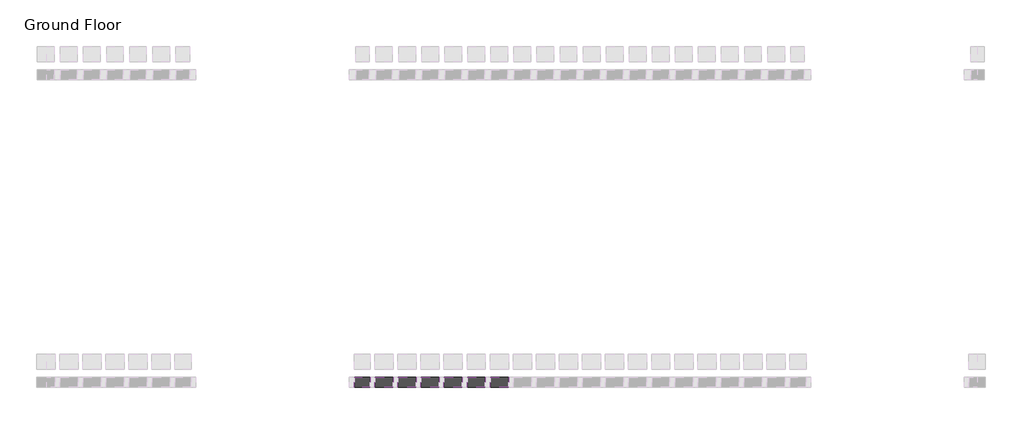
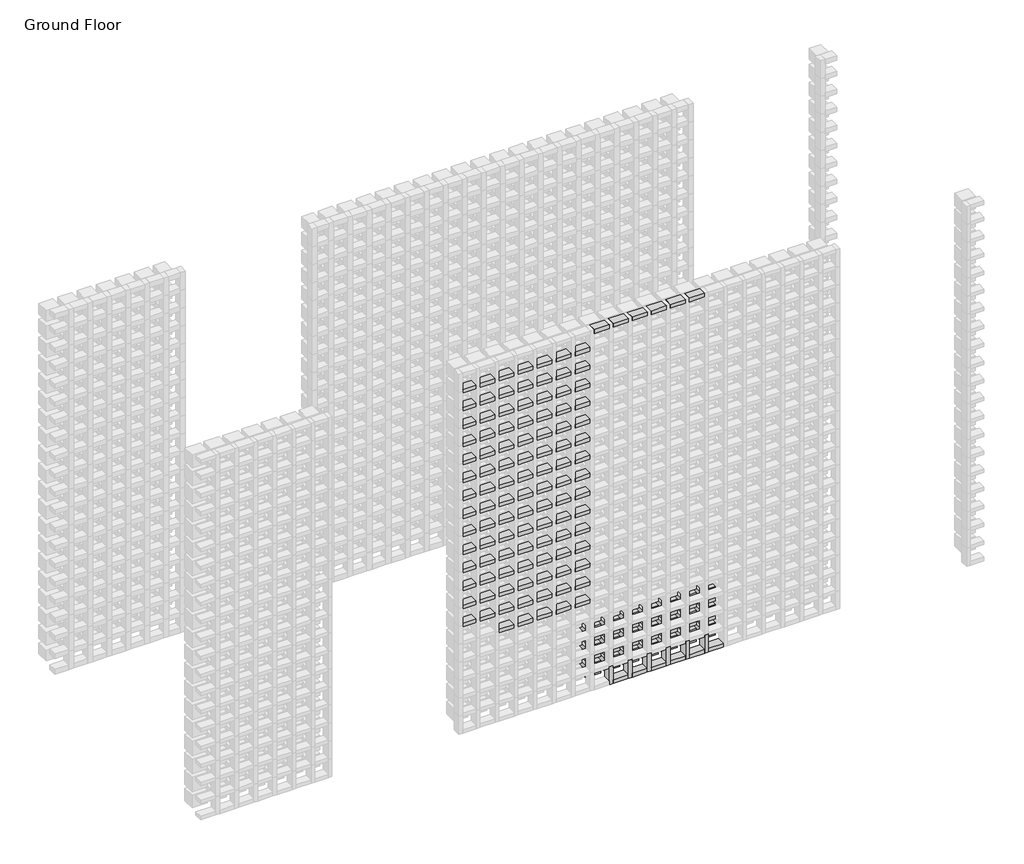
# One storey, part 76 of 350: 121 members, 21 plates.
"""IFC4 building model written with IfcOpenShell, lengths in millimetres."""

from ifc_helpers import new_model, si_unit, origin, place, context, project, spatial, transform, mapped, element, save
from components import rectangular_mullion_5b501421, rectangular_mullion_51467dcc, rectangular_mullion_d4c9a775, rectangular_mullion_e9e2e2fa, rectangular_mullion_f28dea33, empty_system_panel_empty_a57e421f, empty_system_panel_empty_fe50b430

model = new_model("IFC4")

# Units and contexts
model_context = context("Model", 3, world=origin())
ifc_project = project(units=[si_unit("LENGTHUNIT", "METRE", prefix="MILLI")], contexts=[model_context])

# Site, building, storey
site = spatial("IfcSite", under=ifc_project)
building = spatial("IfcBuilding", under=site)
storey = spatial("IfcBuildingStorey", under=building, Name="Ground Floor", Elevation=0.0)

# Members
placement = place(None, origin())
rectangular_mullion_shape = rectangular_mullion_5b501421(model_context)
element("IfcMember", 1, ObjectType="Rectangular Mullion : Batten_Timber_Modinex_Austratus_Grid_Fascia_30x65_Ironbark", at=placement, inside=storey, context=model_context, shape_type="MappedRepresentation", body=[
    mapped(rectangular_mullion_shape, transform((15116.4361642, 38968.2978302, 0.0), x_axis=(1.0, 0.0, 0.0), y_axis=(0.0, -1.0, 0.0), z_axis=(0.0, 0.0, -1.0))),
])
element("IfcMember", 2, ObjectType="Rectangular Mullion : Batten_Timber_Modinex_Austratus_Grid_Fascia_30x65_Ironbark", at=placement, inside=storey, context=model_context, shape_type="MappedRepresentation", body=[
    mapped(rectangular_mullion_shape, transform((15266.4361642, 38968.2978302, 0.0), x_axis=(1.0, 0.0, 0.0), y_axis=(0.0, -1.0, 0.0), z_axis=(0.0, 0.0, -1.0))),
])
element("IfcMember", 3, ObjectType="Rectangular Mullion : Batten_Timber_Modinex_Austratus_Grid_Fascia_30x65_Ironbark", at=placement, inside=storey, context=model_context, shape_type="MappedRepresentation", body=[
    mapped(rectangular_mullion_shape, transform((15416.4361642, 38968.2978302, 0.0), x_axis=(1.0, 0.0, 0.0), y_axis=(0.0, -1.0, 0.0), z_axis=(0.0, 0.0, -1.0))),
])
element("IfcMember", 4, ObjectType="Rectangular Mullion : Batten_Timber_Modinex_Austratus_Grid_Fascia_30x65_Ironbark", at=placement, inside=storey, context=model_context, shape_type="MappedRepresentation", body=[
    mapped(rectangular_mullion_shape, transform((15566.4361642, 38968.2978302, 0.0), x_axis=(1.0, 0.0, 0.0), y_axis=(0.0, -1.0, 0.0), z_axis=(0.0, 0.0, -1.0))),
])
element("IfcMember", 5, ObjectType="Rectangular Mullion : Batten_Timber_Modinex_Austratus_Grid_Fascia_30x65_Ironbark", at=placement, inside=storey, context=model_context, shape_type="MappedRepresentation", body=[
    mapped(rectangular_mullion_shape, transform((15716.4361642, 38968.2978302, 0.0), x_axis=(1.0, 0.0, 0.0), y_axis=(0.0, -1.0, 0.0), z_axis=(0.0, 0.0, -1.0))),
])
element("IfcMember", 6, ObjectType="Rectangular Mullion : Batten_Timber_Modinex_Austratus_Grid_Fascia_30x65_Ironbark", at=placement, inside=storey, context=model_context, shape_type="MappedRepresentation", body=[
    mapped(rectangular_mullion_shape, transform((15866.4361642, 38968.2978302, 0.0), x_axis=(1.0, 0.0, 0.0), y_axis=(0.0, -1.0, 0.0), z_axis=(0.0, 0.0, -1.0))),
])
rectangular_mullion_2_shape = rectangular_mullion_51467dcc(model_context)
element("IfcMember", 7, ObjectType="Rectangular Mullion : Batten_Timber_Modinex_Austratus_Grid_Fascia_30x65_Ironbark", at=placement, inside=storey, context=model_context, shape_type="MappedRepresentation", body=[
    mapped(rectangular_mullion_2_shape, transform((15101.4361642, 38968.2978302, 3000.0), x_axis=(0.0, 0.0, 1.0), y_axis=(0.0, -1.0, 0.0), z_axis=(1.0, 0.0, 0.0))),
])
element("IfcMember", 8, ObjectType="Rectangular Mullion : Batten_Timber_Modinex_Austratus_Grid_Fascia_30x65_Ironbark", at=placement, inside=storey, context=model_context, shape_type="MappedRepresentation", body=[
    mapped(rectangular_mullion_2_shape, transform((15251.4361642, 38968.2978302, 3000.0), x_axis=(0.0, 0.0, 1.0), y_axis=(0.0, -1.0, 0.0), z_axis=(1.0, 0.0, 0.0))),
])
element("IfcMember", 9, ObjectType="Rectangular Mullion : Batten_Timber_Modinex_Austratus_Grid_Fascia_30x65_Ironbark", at=placement, inside=storey, context=model_context, shape_type="MappedRepresentation", body=[
    mapped(rectangular_mullion_2_shape, transform((15401.4361642, 38968.2978302, 3000.0), x_axis=(0.0, 0.0, 1.0), y_axis=(0.0, -1.0, 0.0), z_axis=(1.0, 0.0, 0.0))),
])
element("IfcMember", 10, ObjectType="Rectangular Mullion : Batten_Timber_Modinex_Austratus_Grid_Fascia_30x65_Ironbark", at=placement, inside=storey, context=model_context, shape_type="MappedRepresentation", body=[
    mapped(rectangular_mullion_2_shape, transform((15551.4361642, 38968.2978302, 3000.0), x_axis=(0.0, 0.0, 1.0), y_axis=(0.0, -1.0, 0.0), z_axis=(1.0, 0.0, 0.0))),
])
element("IfcMember", 11, ObjectType="Rectangular Mullion : Batten_Timber_Modinex_Austratus_Grid_Fascia_30x65_Ironbark", at=placement, inside=storey, context=model_context, shape_type="MappedRepresentation", body=[
    mapped(rectangular_mullion_2_shape, transform((15701.4361642, 38968.2978302, 3000.0), x_axis=(0.0, 0.0, 1.0), y_axis=(0.0, -1.0, 0.0), z_axis=(1.0, 0.0, 0.0))),
])
element("IfcMember", 12, ObjectType="Rectangular Mullion : Batten_Timber_Modinex_Austratus_Grid_Fascia_30x65_Ironbark", at=placement, inside=storey, context=model_context, shape_type="MappedRepresentation", body=[
    mapped(rectangular_mullion_2_shape, transform((15851.4361642, 38968.2978302, 3000.0), x_axis=(0.0, 0.0, 1.0), y_axis=(0.0, -1.0, 0.0), z_axis=(1.0, 0.0, 0.0))),
])
rectangular_mullion_3_shape = rectangular_mullion_d4c9a775(model_context)
element("IfcMember", 13, ObjectType="Rectangular Mullion : Batten_Timber_Modinex_Austratus_Grid_Fascia_30x65_Ironbark", at=placement, inside=storey, context=model_context, shape_type="MappedRepresentation", body=[
    mapped(rectangular_mullion_3_shape, transform((15131.4361642, 38968.2978302, 0.0), x_axis=(0.0, 0.0, -1.0), y_axis=(0.0, -1.0, 0.0), z_axis=(-1.0, 0.0, 0.0))),
])
element("IfcMember", 14, ObjectType="Rectangular Mullion : Batten_Timber_Modinex_Austratus_Grid_Fascia_30x65_Ironbark", at=placement, inside=storey, context=model_context, shape_type="MappedRepresentation", body=[
    mapped(rectangular_mullion_3_shape, transform((15281.4361642, 38968.2978302, 0.0), x_axis=(0.0, 0.0, -1.0), y_axis=(0.0, -1.0, 0.0), z_axis=(-1.0, 0.0, 0.0))),
])
element("IfcMember", 15, ObjectType="Rectangular Mullion : Batten_Timber_Modinex_Austratus_Grid_Fascia_30x65_Ironbark", at=placement, inside=storey, context=model_context, shape_type="MappedRepresentation", body=[
    mapped(rectangular_mullion_3_shape, transform((15431.4361642, 38968.2978302, 0.0), x_axis=(0.0, 0.0, -1.0), y_axis=(0.0, -1.0, 0.0), z_axis=(-1.0, 0.0, 0.0))),
])
element("IfcMember", 16, ObjectType="Rectangular Mullion : Batten_Timber_Modinex_Austratus_Grid_Fascia_30x65_Ironbark", at=placement, inside=storey, context=model_context, shape_type="MappedRepresentation", body=[
    mapped(rectangular_mullion_3_shape, transform((15581.4361642, 38968.2978302, 0.0), x_axis=(0.0, 0.0, -1.0), y_axis=(0.0, -1.0, 0.0), z_axis=(-1.0, 0.0, 0.0))),
])
element("IfcMember", 17, ObjectType="Rectangular Mullion : Batten_Timber_Modinex_Austratus_Grid_Fascia_30x65_Ironbark", at=placement, inside=storey, context=model_context, shape_type="MappedRepresentation", body=[
    mapped(rectangular_mullion_3_shape, transform((15731.4361642, 38968.2978302, 0.0), x_axis=(0.0, 0.0, -1.0), y_axis=(0.0, -1.0, 0.0), z_axis=(-1.0, 0.0, 0.0))),
])
element("IfcMember", 18, ObjectType="Rectangular Mullion : Batten_Timber_Modinex_Austratus_Grid_Fascia_30x65_Ironbark", at=placement, inside=storey, context=model_context, shape_type="MappedRepresentation", body=[
    mapped(rectangular_mullion_3_shape, transform((15881.4361642, 38968.2978302, 0.0), x_axis=(0.0, 0.0, -1.0), y_axis=(0.0, -1.0, 0.0), z_axis=(-1.0, 0.0, 0.0))),
])
rectangular_mullion_4_shape = rectangular_mullion_e9e2e2fa(model_context)
element("IfcMember", 19, ObjectType="Rectangular Mullion : Batten_Timber_Modinex_Austratus_Grid_Fascia_30x65_Ironbark", at=placement, inside=storey, context=model_context, shape_type="MappedRepresentation", body=[
    mapped(rectangular_mullion_4_shape, transform((14051.4361642, 38968.2978302, 900.0), x_axis=(0.0, 0.0, 1.0), y_axis=(0.0, -1.0, 0.0), z_axis=(1.0, 0.0, 0.0))),
])
element("IfcMember", 20, ObjectType="Rectangular Mullion : Batten_Timber_Modinex_Austratus_Grid_Fascia_30x65_Ironbark", at=placement, inside=storey, context=model_context, shape_type="MappedRepresentation", body=[
    mapped(rectangular_mullion_4_shape, transform((14051.4361642, 38968.2978302, 1050.0), x_axis=(0.0, 0.0, 1.0), y_axis=(0.0, -1.0, 0.0), z_axis=(1.0, 0.0, 0.0))),
])
element("IfcMember", 21, ObjectType="Rectangular Mullion : Batten_Timber_Modinex_Austratus_Grid_Fascia_30x65_Ironbark", at=placement, inside=storey, context=model_context, shape_type="MappedRepresentation", body=[
    mapped(rectangular_mullion_4_shape, transform((14051.4361642, 38968.2978302, 1200.0), x_axis=(0.0, 0.0, 1.0), y_axis=(0.0, -1.0, 0.0), z_axis=(1.0, 0.0, 0.0))),
])
element("IfcMember", 22, ObjectType="Rectangular Mullion : Batten_Timber_Modinex_Austratus_Grid_Fascia_30x65_Ironbark", at=placement, inside=storey, context=model_context, shape_type="MappedRepresentation", body=[
    mapped(rectangular_mullion_4_shape, transform((14051.4361642, 38968.2978302, 1350.0), x_axis=(0.0, 0.0, 1.0), y_axis=(0.0, -1.0, 0.0), z_axis=(1.0, 0.0, 0.0))),
])
element("IfcMember", 23, ObjectType="Rectangular Mullion : Batten_Timber_Modinex_Austratus_Grid_Fascia_30x65_Ironbark", at=placement, inside=storey, context=model_context, shape_type="MappedRepresentation", body=[
    mapped(rectangular_mullion_4_shape, transform((14051.4361642, 38968.2978302, 1500.0), x_axis=(0.0, 0.0, 1.0), y_axis=(0.0, -1.0, 0.0), z_axis=(1.0, 0.0, 0.0))),
])
element("IfcMember", 24, ObjectType="Rectangular Mullion : Batten_Timber_Modinex_Austratus_Grid_Fascia_30x65_Ironbark", at=placement, inside=storey, context=model_context, shape_type="MappedRepresentation", body=[
    mapped(rectangular_mullion_4_shape, transform((14051.4361642, 38968.2978302, 1650.0), x_axis=(0.0, 0.0, 1.0), y_axis=(0.0, -1.0, 0.0), z_axis=(1.0, 0.0, 0.0))),
])
element("IfcMember", 25, ObjectType="Rectangular Mullion : Batten_Timber_Modinex_Austratus_Grid_Fascia_30x65_Ironbark", at=placement, inside=storey, context=model_context, shape_type="MappedRepresentation", body=[
    mapped(rectangular_mullion_4_shape, transform((14051.4361642, 38968.2978302, 1800.0), x_axis=(0.0, 0.0, 1.0), y_axis=(0.0, -1.0, 0.0), z_axis=(1.0, 0.0, 0.0))),
])
element("IfcMember", 26, ObjectType="Rectangular Mullion : Batten_Timber_Modinex_Austratus_Grid_Fascia_30x65_Ironbark", at=placement, inside=storey, context=model_context, shape_type="MappedRepresentation", body=[
    mapped(rectangular_mullion_4_shape, transform((14051.4361642, 38968.2978302, 1950.0), x_axis=(0.0, 0.0, 1.0), y_axis=(0.0, -1.0, 0.0), z_axis=(1.0, 0.0, 0.0))),
])
element("IfcMember", 27, ObjectType="Rectangular Mullion : Batten_Timber_Modinex_Austratus_Grid_Fascia_30x65_Ironbark", at=placement, inside=storey, context=model_context, shape_type="MappedRepresentation", body=[
    mapped(rectangular_mullion_4_shape, transform((14051.4361642, 38968.2978302, 2100.0), x_axis=(0.0, 0.0, 1.0), y_axis=(0.0, -1.0, 0.0), z_axis=(1.0, 0.0, 0.0))),
])
element("IfcMember", 28, ObjectType="Rectangular Mullion : Batten_Timber_Modinex_Austratus_Grid_Fascia_30x65_Ironbark", at=placement, inside=storey, context=model_context, shape_type="MappedRepresentation", body=[
    mapped(rectangular_mullion_4_shape, transform((14051.4361642, 38968.2978302, 2250.0), x_axis=(0.0, 0.0, 1.0), y_axis=(0.0, -1.0, 0.0), z_axis=(1.0, 0.0, 0.0))),
])
element("IfcMember", 29, ObjectType="Rectangular Mullion : Batten_Timber_Modinex_Austratus_Grid_Fascia_30x65_Ironbark", at=placement, inside=storey, context=model_context, shape_type="MappedRepresentation", body=[
    mapped(rectangular_mullion_4_shape, transform((14051.4361642, 38968.2978302, 2400.0), x_axis=(0.0, 0.0, 1.0), y_axis=(0.0, -1.0, 0.0), z_axis=(1.0, 0.0, 0.0))),
])
element("IfcMember", 30, ObjectType="Rectangular Mullion : Batten_Timber_Modinex_Austratus_Grid_Fascia_30x65_Ironbark", at=placement, inside=storey, context=model_context, shape_type="MappedRepresentation", body=[
    mapped(rectangular_mullion_4_shape, transform((14051.4361642, 38968.2978302, 2550.0), x_axis=(0.0, 0.0, 1.0), y_axis=(0.0, -1.0, 0.0), z_axis=(1.0, 0.0, 0.0))),
])
element("IfcMember", 31, ObjectType="Rectangular Mullion : Batten_Timber_Modinex_Austratus_Grid_Fascia_30x65_Ironbark", at=placement, inside=storey, context=model_context, shape_type="MappedRepresentation", body=[
    mapped(rectangular_mullion_4_shape, transform((14051.4361642, 38968.2978302, 2700.0), x_axis=(0.0, 0.0, 1.0), y_axis=(0.0, -1.0, 0.0), z_axis=(1.0, 0.0, 0.0))),
])
element("IfcMember", 32, ObjectType="Rectangular Mullion : Batten_Timber_Modinex_Austratus_Grid_Fascia_30x65_Ironbark", at=placement, inside=storey, context=model_context, shape_type="MappedRepresentation", body=[
    mapped(rectangular_mullion_4_shape, transform((14051.4361642, 38968.2978302, 2850.0), x_axis=(0.0, 0.0, 1.0), y_axis=(0.0, -1.0, 0.0), z_axis=(1.0, 0.0, 0.0))),
])
rectangular_mullion_5_shape = rectangular_mullion_f28dea33(model_context)
element("IfcMember", 33, ObjectType="Rectangular Mullion : Batten_Timber_Modinex_Austratus_Grid_Fascia_30x65_Ironbark", at=placement, inside=storey, context=model_context, shape_type="MappedRepresentation", body=[
    mapped(rectangular_mullion_5_shape, transform((14351.4361642, 38968.2978302, 750.0), x_axis=(0.0, 0.0, 1.0), y_axis=(0.0, -1.0, 0.0), z_axis=(1.0, 0.0, 0.0))),
])
element("IfcMember", 34, ObjectType="Rectangular Mullion : Batten_Timber_Modinex_Austratus_Grid_Fascia_30x65_Ironbark", at=placement, inside=storey, context=model_context, shape_type="MappedRepresentation", body=[
    mapped(rectangular_mullion_5_shape, transform((14501.4361642, 38968.2978302, 750.0), x_axis=(0.0, 0.0, 1.0), y_axis=(0.0, -1.0, 0.0), z_axis=(1.0, 0.0, 0.0))),
])
element("IfcMember", 35, ObjectType="Rectangular Mullion : Batten_Timber_Modinex_Austratus_Grid_Fascia_30x65_Ironbark", at=placement, inside=storey, context=model_context, shape_type="MappedRepresentation", body=[
    mapped(rectangular_mullion_5_shape, transform((14651.4361642, 38968.2978302, 750.0), x_axis=(0.0, 0.0, 1.0), y_axis=(0.0, -1.0, 0.0), z_axis=(1.0, 0.0, 0.0))),
])
element("IfcMember", 36, ObjectType="Rectangular Mullion : Batten_Timber_Modinex_Austratus_Grid_Fascia_30x65_Ironbark", at=placement, inside=storey, context=model_context, shape_type="MappedRepresentation", body=[
    mapped(rectangular_mullion_5_shape, transform((14801.4361642, 38968.2978302, 750.0), x_axis=(0.0, 0.0, 1.0), y_axis=(0.0, -1.0, 0.0), z_axis=(1.0, 0.0, 0.0))),
])
element("IfcMember", 37, ObjectType="Rectangular Mullion : Batten_Timber_Modinex_Austratus_Grid_Fascia_30x65_Ironbark", at=placement, inside=storey, context=model_context, shape_type="MappedRepresentation", body=[
    mapped(rectangular_mullion_5_shape, transform((14951.4361642, 38968.2978302, 750.0), x_axis=(0.0, 0.0, 1.0), y_axis=(0.0, -1.0, 0.0), z_axis=(1.0, 0.0, 0.0))),
])
element("IfcMember", 38, ObjectType="Rectangular Mullion : Batten_Timber_Modinex_Austratus_Grid_Fascia_30x65_Ironbark", at=placement, inside=storey, context=model_context, shape_type="MappedRepresentation", body=[
    mapped(rectangular_mullion_5_shape, transform((14201.4361642, 38968.2978302, 900.0), x_axis=(0.0, 0.0, 1.0), y_axis=(0.0, -1.0, 0.0), z_axis=(1.0, 0.0, 0.0))),
])
element("IfcMember", 39, ObjectType="Rectangular Mullion : Batten_Timber_Modinex_Austratus_Grid_Fascia_30x65_Ironbark", at=placement, inside=storey, context=model_context, shape_type="MappedRepresentation", body=[
    mapped(rectangular_mullion_5_shape, transform((14351.4361642, 38968.2978302, 900.0), x_axis=(0.0, 0.0, 1.0), y_axis=(0.0, -1.0, 0.0), z_axis=(1.0, 0.0, 0.0))),
])
element("IfcMember", 40, ObjectType="Rectangular Mullion : Batten_Timber_Modinex_Austratus_Grid_Fascia_30x65_Ironbark", at=placement, inside=storey, context=model_context, shape_type="MappedRepresentation", body=[
    mapped(rectangular_mullion_5_shape, transform((14501.4361642, 38968.2978302, 900.0), x_axis=(0.0, 0.0, 1.0), y_axis=(0.0, -1.0, 0.0), z_axis=(1.0, 0.0, 0.0))),
])
element("IfcMember", 41, ObjectType="Rectangular Mullion : Batten_Timber_Modinex_Austratus_Grid_Fascia_30x65_Ironbark", at=placement, inside=storey, context=model_context, shape_type="MappedRepresentation", body=[
    mapped(rectangular_mullion_5_shape, transform((14651.4361642, 38968.2978302, 900.0), x_axis=(0.0, 0.0, 1.0), y_axis=(0.0, -1.0, 0.0), z_axis=(1.0, 0.0, 0.0))),
])
element("IfcMember", 42, ObjectType="Rectangular Mullion : Batten_Timber_Modinex_Austratus_Grid_Fascia_30x65_Ironbark", at=placement, inside=storey, context=model_context, shape_type="MappedRepresentation", body=[
    mapped(rectangular_mullion_5_shape, transform((14801.4361642, 38968.2978302, 900.0), x_axis=(0.0, 0.0, 1.0), y_axis=(0.0, -1.0, 0.0), z_axis=(1.0, 0.0, 0.0))),
])
element("IfcMember", 43, ObjectType="Rectangular Mullion : Batten_Timber_Modinex_Austratus_Grid_Fascia_30x65_Ironbark", at=placement, inside=storey, context=model_context, shape_type="MappedRepresentation", body=[
    mapped(rectangular_mullion_5_shape, transform((14951.4361642, 38968.2978302, 900.0), x_axis=(0.0, 0.0, 1.0), y_axis=(0.0, -1.0, 0.0), z_axis=(1.0, 0.0, 0.0))),
])
element("IfcMember", 44, ObjectType="Rectangular Mullion : Batten_Timber_Modinex_Austratus_Grid_Fascia_30x65_Ironbark", at=placement, inside=storey, context=model_context, shape_type="MappedRepresentation", body=[
    mapped(rectangular_mullion_5_shape, transform((14201.4361642, 38968.2978302, 1050.0), x_axis=(0.0, 0.0, 1.0), y_axis=(0.0, -1.0, 0.0), z_axis=(1.0, 0.0, 0.0))),
])
element("IfcMember", 45, ObjectType="Rectangular Mullion : Batten_Timber_Modinex_Austratus_Grid_Fascia_30x65_Ironbark", at=placement, inside=storey, context=model_context, shape_type="MappedRepresentation", body=[
    mapped(rectangular_mullion_5_shape, transform((14351.4361642, 38968.2978302, 1050.0), x_axis=(0.0, 0.0, 1.0), y_axis=(0.0, -1.0, 0.0), z_axis=(1.0, 0.0, 0.0))),
])
element("IfcMember", 46, ObjectType="Rectangular Mullion : Batten_Timber_Modinex_Austratus_Grid_Fascia_30x65_Ironbark", at=placement, inside=storey, context=model_context, shape_type="MappedRepresentation", body=[
    mapped(rectangular_mullion_5_shape, transform((14501.4361642, 38968.2978302, 1050.0), x_axis=(0.0, 0.0, 1.0), y_axis=(0.0, -1.0, 0.0), z_axis=(1.0, 0.0, 0.0))),
])
element("IfcMember", 47, ObjectType="Rectangular Mullion : Batten_Timber_Modinex_Austratus_Grid_Fascia_30x65_Ironbark", at=placement, inside=storey, context=model_context, shape_type="MappedRepresentation", body=[
    mapped(rectangular_mullion_5_shape, transform((14651.4361642, 38968.2978302, 1050.0), x_axis=(0.0, 0.0, 1.0), y_axis=(0.0, -1.0, 0.0), z_axis=(1.0, 0.0, 0.0))),
])
element("IfcMember", 48, ObjectType="Rectangular Mullion : Batten_Timber_Modinex_Austratus_Grid_Fascia_30x65_Ironbark", at=placement, inside=storey, context=model_context, shape_type="MappedRepresentation", body=[
    mapped(rectangular_mullion_5_shape, transform((14801.4361642, 38968.2978302, 1050.0), x_axis=(0.0, 0.0, 1.0), y_axis=(0.0, -1.0, 0.0), z_axis=(1.0, 0.0, 0.0))),
])
element("IfcMember", 49, ObjectType="Rectangular Mullion : Batten_Timber_Modinex_Austratus_Grid_Fascia_30x65_Ironbark", at=placement, inside=storey, context=model_context, shape_type="MappedRepresentation", body=[
    mapped(rectangular_mullion_5_shape, transform((14951.4361642, 38968.2978302, 1050.0), x_axis=(0.0, 0.0, 1.0), y_axis=(0.0, -1.0, 0.0), z_axis=(1.0, 0.0, 0.0))),
])
element("IfcMember", 50, ObjectType="Rectangular Mullion : Batten_Timber_Modinex_Austratus_Grid_Fascia_30x65_Ironbark", at=placement, inside=storey, context=model_context, shape_type="MappedRepresentation", body=[
    mapped(rectangular_mullion_5_shape, transform((14201.4361642, 38968.2978302, 1200.0), x_axis=(0.0, 0.0, 1.0), y_axis=(0.0, -1.0, 0.0), z_axis=(1.0, 0.0, 0.0))),
])
element("IfcMember", 51, ObjectType="Rectangular Mullion : Batten_Timber_Modinex_Austratus_Grid_Fascia_30x65_Ironbark", at=placement, inside=storey, context=model_context, shape_type="MappedRepresentation", body=[
    mapped(rectangular_mullion_5_shape, transform((14351.4361642, 38968.2978302, 1200.0), x_axis=(0.0, 0.0, 1.0), y_axis=(0.0, -1.0, 0.0), z_axis=(1.0, 0.0, 0.0))),
])
element("IfcMember", 52, ObjectType="Rectangular Mullion : Batten_Timber_Modinex_Austratus_Grid_Fascia_30x65_Ironbark", at=placement, inside=storey, context=model_context, shape_type="MappedRepresentation", body=[
    mapped(rectangular_mullion_5_shape, transform((14501.4361642, 38968.2978302, 1200.0), x_axis=(0.0, 0.0, 1.0), y_axis=(0.0, -1.0, 0.0), z_axis=(1.0, 0.0, 0.0))),
])
element("IfcMember", 53, ObjectType="Rectangular Mullion : Batten_Timber_Modinex_Austratus_Grid_Fascia_30x65_Ironbark", at=placement, inside=storey, context=model_context, shape_type="MappedRepresentation", body=[
    mapped(rectangular_mullion_5_shape, transform((14651.4361642, 38968.2978302, 1200.0), x_axis=(0.0, 0.0, 1.0), y_axis=(0.0, -1.0, 0.0), z_axis=(1.0, 0.0, 0.0))),
])
element("IfcMember", 54, ObjectType="Rectangular Mullion : Batten_Timber_Modinex_Austratus_Grid_Fascia_30x65_Ironbark", at=placement, inside=storey, context=model_context, shape_type="MappedRepresentation", body=[
    mapped(rectangular_mullion_5_shape, transform((14801.4361642, 38968.2978302, 1200.0), x_axis=(0.0, 0.0, 1.0), y_axis=(0.0, -1.0, 0.0), z_axis=(1.0, 0.0, 0.0))),
])
element("IfcMember", 55, ObjectType="Rectangular Mullion : Batten_Timber_Modinex_Austratus_Grid_Fascia_30x65_Ironbark", at=placement, inside=storey, context=model_context, shape_type="MappedRepresentation", body=[
    mapped(rectangular_mullion_5_shape, transform((14951.4361642, 38968.2978302, 1200.0), x_axis=(0.0, 0.0, 1.0), y_axis=(0.0, -1.0, 0.0), z_axis=(1.0, 0.0, 0.0))),
])
element("IfcMember", 56, ObjectType="Rectangular Mullion : Batten_Timber_Modinex_Austratus_Grid_Fascia_30x65_Ironbark", at=placement, inside=storey, context=model_context, shape_type="MappedRepresentation", body=[
    mapped(rectangular_mullion_5_shape, transform((14201.4361642, 38968.2978302, 1350.0), x_axis=(0.0, 0.0, 1.0), y_axis=(0.0, -1.0, 0.0), z_axis=(1.0, 0.0, 0.0))),
])
element("IfcMember", 57, ObjectType="Rectangular Mullion : Batten_Timber_Modinex_Austratus_Grid_Fascia_30x65_Ironbark", at=placement, inside=storey, context=model_context, shape_type="MappedRepresentation", body=[
    mapped(rectangular_mullion_5_shape, transform((14351.4361642, 38968.2978302, 1350.0), x_axis=(0.0, 0.0, 1.0), y_axis=(0.0, -1.0, 0.0), z_axis=(1.0, 0.0, 0.0))),
])
element("IfcMember", 58, ObjectType="Rectangular Mullion : Batten_Timber_Modinex_Austratus_Grid_Fascia_30x65_Ironbark", at=placement, inside=storey, context=model_context, shape_type="MappedRepresentation", body=[
    mapped(rectangular_mullion_5_shape, transform((14501.4361642, 38968.2978302, 1350.0), x_axis=(0.0, 0.0, 1.0), y_axis=(0.0, -1.0, 0.0), z_axis=(1.0, 0.0, 0.0))),
])
element("IfcMember", 59, ObjectType="Rectangular Mullion : Batten_Timber_Modinex_Austratus_Grid_Fascia_30x65_Ironbark", at=placement, inside=storey, context=model_context, shape_type="MappedRepresentation", body=[
    mapped(rectangular_mullion_5_shape, transform((14651.4361642, 38968.2978302, 1350.0), x_axis=(0.0, 0.0, 1.0), y_axis=(0.0, -1.0, 0.0), z_axis=(1.0, 0.0, 0.0))),
])
element("IfcMember", 60, ObjectType="Rectangular Mullion : Batten_Timber_Modinex_Austratus_Grid_Fascia_30x65_Ironbark", at=placement, inside=storey, context=model_context, shape_type="MappedRepresentation", body=[
    mapped(rectangular_mullion_5_shape, transform((14801.4361642, 38968.2978302, 1350.0), x_axis=(0.0, 0.0, 1.0), y_axis=(0.0, -1.0, 0.0), z_axis=(1.0, 0.0, 0.0))),
])
element("IfcMember", 61, ObjectType="Rectangular Mullion : Batten_Timber_Modinex_Austratus_Grid_Fascia_30x65_Ironbark", at=placement, inside=storey, context=model_context, shape_type="MappedRepresentation", body=[
    mapped(rectangular_mullion_5_shape, transform((14951.4361642, 38968.2978302, 1350.0), x_axis=(0.0, 0.0, 1.0), y_axis=(0.0, -1.0, 0.0), z_axis=(1.0, 0.0, 0.0))),
])
element("IfcMember", 62, ObjectType="Rectangular Mullion : Batten_Timber_Modinex_Austratus_Grid_Fascia_30x65_Ironbark", at=placement, inside=storey, context=model_context, shape_type="MappedRepresentation", body=[
    mapped(rectangular_mullion_5_shape, transform((14201.4361642, 38968.2978302, 1500.0), x_axis=(0.0, 0.0, 1.0), y_axis=(0.0, -1.0, 0.0), z_axis=(1.0, 0.0, 0.0))),
])
element("IfcMember", 63, ObjectType="Rectangular Mullion : Batten_Timber_Modinex_Austratus_Grid_Fascia_30x65_Ironbark", at=placement, inside=storey, context=model_context, shape_type="MappedRepresentation", body=[
    mapped(rectangular_mullion_5_shape, transform((14351.4361642, 38968.2978302, 1500.0), x_axis=(0.0, 0.0, 1.0), y_axis=(0.0, -1.0, 0.0), z_axis=(1.0, 0.0, 0.0))),
])
element("IfcMember", 64, ObjectType="Rectangular Mullion : Batten_Timber_Modinex_Austratus_Grid_Fascia_30x65_Ironbark", at=placement, inside=storey, context=model_context, shape_type="MappedRepresentation", body=[
    mapped(rectangular_mullion_5_shape, transform((14501.4361642, 38968.2978302, 1500.0), x_axis=(0.0, 0.0, 1.0), y_axis=(0.0, -1.0, 0.0), z_axis=(1.0, 0.0, 0.0))),
])
element("IfcMember", 65, ObjectType="Rectangular Mullion : Batten_Timber_Modinex_Austratus_Grid_Fascia_30x65_Ironbark", at=placement, inside=storey, context=model_context, shape_type="MappedRepresentation", body=[
    mapped(rectangular_mullion_5_shape, transform((14651.4361642, 38968.2978302, 1500.0), x_axis=(0.0, 0.0, 1.0), y_axis=(0.0, -1.0, 0.0), z_axis=(1.0, 0.0, 0.0))),
])
element("IfcMember", 66, ObjectType="Rectangular Mullion : Batten_Timber_Modinex_Austratus_Grid_Fascia_30x65_Ironbark", at=placement, inside=storey, context=model_context, shape_type="MappedRepresentation", body=[
    mapped(rectangular_mullion_5_shape, transform((14801.4361642, 38968.2978302, 1500.0), x_axis=(0.0, 0.0, 1.0), y_axis=(0.0, -1.0, 0.0), z_axis=(1.0, 0.0, 0.0))),
])
element("IfcMember", 67, ObjectType="Rectangular Mullion : Batten_Timber_Modinex_Austratus_Grid_Fascia_30x65_Ironbark", at=placement, inside=storey, context=model_context, shape_type="MappedRepresentation", body=[
    mapped(rectangular_mullion_5_shape, transform((14951.4361642, 38968.2978302, 1500.0), x_axis=(0.0, 0.0, 1.0), y_axis=(0.0, -1.0, 0.0), z_axis=(1.0, 0.0, 0.0))),
])
element("IfcMember", 68, ObjectType="Rectangular Mullion : Batten_Timber_Modinex_Austratus_Grid_Fascia_30x65_Ironbark", at=placement, inside=storey, context=model_context, shape_type="MappedRepresentation", body=[
    mapped(rectangular_mullion_5_shape, transform((14201.4361642, 38968.2978302, 1650.0), x_axis=(0.0, 0.0, 1.0), y_axis=(0.0, -1.0, 0.0), z_axis=(1.0, 0.0, 0.0))),
])
element("IfcMember", 69, ObjectType="Rectangular Mullion : Batten_Timber_Modinex_Austratus_Grid_Fascia_30x65_Ironbark", at=placement, inside=storey, context=model_context, shape_type="MappedRepresentation", body=[
    mapped(rectangular_mullion_5_shape, transform((14351.4361642, 38968.2978302, 1650.0), x_axis=(0.0, 0.0, 1.0), y_axis=(0.0, -1.0, 0.0), z_axis=(1.0, 0.0, 0.0))),
])
element("IfcMember", 70, ObjectType="Rectangular Mullion : Batten_Timber_Modinex_Austratus_Grid_Fascia_30x65_Ironbark", at=placement, inside=storey, context=model_context, shape_type="MappedRepresentation", body=[
    mapped(rectangular_mullion_5_shape, transform((14501.4361642, 38968.2978302, 1650.0), x_axis=(0.0, 0.0, 1.0), y_axis=(0.0, -1.0, 0.0), z_axis=(1.0, 0.0, 0.0))),
])
element("IfcMember", 71, ObjectType="Rectangular Mullion : Batten_Timber_Modinex_Austratus_Grid_Fascia_30x65_Ironbark", at=placement, inside=storey, context=model_context, shape_type="MappedRepresentation", body=[
    mapped(rectangular_mullion_5_shape, transform((14651.4361642, 38968.2978302, 1650.0), x_axis=(0.0, 0.0, 1.0), y_axis=(0.0, -1.0, 0.0), z_axis=(1.0, 0.0, 0.0))),
])
element("IfcMember", 72, ObjectType="Rectangular Mullion : Batten_Timber_Modinex_Austratus_Grid_Fascia_30x65_Ironbark", at=placement, inside=storey, context=model_context, shape_type="MappedRepresentation", body=[
    mapped(rectangular_mullion_5_shape, transform((14801.4361642, 38968.2978302, 1650.0), x_axis=(0.0, 0.0, 1.0), y_axis=(0.0, -1.0, 0.0), z_axis=(1.0, 0.0, 0.0))),
])
element("IfcMember", 73, ObjectType="Rectangular Mullion : Batten_Timber_Modinex_Austratus_Grid_Fascia_30x65_Ironbark", at=placement, inside=storey, context=model_context, shape_type="MappedRepresentation", body=[
    mapped(rectangular_mullion_5_shape, transform((14951.4361642, 38968.2978302, 1650.0), x_axis=(0.0, 0.0, 1.0), y_axis=(0.0, -1.0, 0.0), z_axis=(1.0, 0.0, 0.0))),
])
element("IfcMember", 74, ObjectType="Rectangular Mullion : Batten_Timber_Modinex_Austratus_Grid_Fascia_30x65_Ironbark", at=placement, inside=storey, context=model_context, shape_type="MappedRepresentation", body=[
    mapped(rectangular_mullion_5_shape, transform((14201.4361642, 38968.2978302, 1800.0), x_axis=(0.0, 0.0, 1.0), y_axis=(0.0, -1.0, 0.0), z_axis=(1.0, 0.0, 0.0))),
])
element("IfcMember", 75, ObjectType="Rectangular Mullion : Batten_Timber_Modinex_Austratus_Grid_Fascia_30x65_Ironbark", at=placement, inside=storey, context=model_context, shape_type="MappedRepresentation", body=[
    mapped(rectangular_mullion_5_shape, transform((14351.4361642, 38968.2978302, 1800.0), x_axis=(0.0, 0.0, 1.0), y_axis=(0.0, -1.0, 0.0), z_axis=(1.0, 0.0, 0.0))),
])
element("IfcMember", 76, ObjectType="Rectangular Mullion : Batten_Timber_Modinex_Austratus_Grid_Fascia_30x65_Ironbark", at=placement, inside=storey, context=model_context, shape_type="MappedRepresentation", body=[
    mapped(rectangular_mullion_5_shape, transform((14501.4361642, 38968.2978302, 1800.0), x_axis=(0.0, 0.0, 1.0), y_axis=(0.0, -1.0, 0.0), z_axis=(1.0, 0.0, 0.0))),
])
element("IfcMember", 77, ObjectType="Rectangular Mullion : Batten_Timber_Modinex_Austratus_Grid_Fascia_30x65_Ironbark", at=placement, inside=storey, context=model_context, shape_type="MappedRepresentation", body=[
    mapped(rectangular_mullion_5_shape, transform((14651.4361642, 38968.2978302, 1800.0), x_axis=(0.0, 0.0, 1.0), y_axis=(0.0, -1.0, 0.0), z_axis=(1.0, 0.0, 0.0))),
])
element("IfcMember", 78, ObjectType="Rectangular Mullion : Batten_Timber_Modinex_Austratus_Grid_Fascia_30x65_Ironbark", at=placement, inside=storey, context=model_context, shape_type="MappedRepresentation", body=[
    mapped(rectangular_mullion_5_shape, transform((14801.4361642, 38968.2978302, 1800.0), x_axis=(0.0, 0.0, 1.0), y_axis=(0.0, -1.0, 0.0), z_axis=(1.0, 0.0, 0.0))),
])
element("IfcMember", 79, ObjectType="Rectangular Mullion : Batten_Timber_Modinex_Austratus_Grid_Fascia_30x65_Ironbark", at=placement, inside=storey, context=model_context, shape_type="MappedRepresentation", body=[
    mapped(rectangular_mullion_5_shape, transform((14951.4361642, 38968.2978302, 1800.0), x_axis=(0.0, 0.0, 1.0), y_axis=(0.0, -1.0, 0.0), z_axis=(1.0, 0.0, 0.0))),
])
element("IfcMember", 80, ObjectType="Rectangular Mullion : Batten_Timber_Modinex_Austratus_Grid_Fascia_30x65_Ironbark", at=placement, inside=storey, context=model_context, shape_type="MappedRepresentation", body=[
    mapped(rectangular_mullion_5_shape, transform((14201.4361642, 38968.2978302, 1950.0), x_axis=(0.0, 0.0, 1.0), y_axis=(0.0, -1.0, 0.0), z_axis=(1.0, 0.0, 0.0))),
])
element("IfcMember", 81, ObjectType="Rectangular Mullion : Batten_Timber_Modinex_Austratus_Grid_Fascia_30x65_Ironbark", at=placement, inside=storey, context=model_context, shape_type="MappedRepresentation", body=[
    mapped(rectangular_mullion_5_shape, transform((14351.4361642, 38968.2978302, 1950.0), x_axis=(0.0, 0.0, 1.0), y_axis=(0.0, -1.0, 0.0), z_axis=(1.0, 0.0, 0.0))),
])
element("IfcMember", 82, ObjectType="Rectangular Mullion : Batten_Timber_Modinex_Austratus_Grid_Fascia_30x65_Ironbark", at=placement, inside=storey, context=model_context, shape_type="MappedRepresentation", body=[
    mapped(rectangular_mullion_5_shape, transform((14501.4361642, 38968.2978302, 1950.0), x_axis=(0.0, 0.0, 1.0), y_axis=(0.0, -1.0, 0.0), z_axis=(1.0, 0.0, 0.0))),
])
element("IfcMember", 83, ObjectType="Rectangular Mullion : Batten_Timber_Modinex_Austratus_Grid_Fascia_30x65_Ironbark", at=placement, inside=storey, context=model_context, shape_type="MappedRepresentation", body=[
    mapped(rectangular_mullion_5_shape, transform((14651.4361642, 38968.2978302, 1950.0), x_axis=(0.0, 0.0, 1.0), y_axis=(0.0, -1.0, 0.0), z_axis=(1.0, 0.0, 0.0))),
])
element("IfcMember", 84, ObjectType="Rectangular Mullion : Batten_Timber_Modinex_Austratus_Grid_Fascia_30x65_Ironbark", at=placement, inside=storey, context=model_context, shape_type="MappedRepresentation", body=[
    mapped(rectangular_mullion_5_shape, transform((14801.4361642, 38968.2978302, 1950.0), x_axis=(0.0, 0.0, 1.0), y_axis=(0.0, -1.0, 0.0), z_axis=(1.0, 0.0, 0.0))),
])
element("IfcMember", 85, ObjectType="Rectangular Mullion : Batten_Timber_Modinex_Austratus_Grid_Fascia_30x65_Ironbark", at=placement, inside=storey, context=model_context, shape_type="MappedRepresentation", body=[
    mapped(rectangular_mullion_5_shape, transform((14951.4361642, 38968.2978302, 1950.0), x_axis=(0.0, 0.0, 1.0), y_axis=(0.0, -1.0, 0.0), z_axis=(1.0, 0.0, 0.0))),
])
element("IfcMember", 86, ObjectType="Rectangular Mullion : Batten_Timber_Modinex_Austratus_Grid_Fascia_30x65_Ironbark", at=placement, inside=storey, context=model_context, shape_type="MappedRepresentation", body=[
    mapped(rectangular_mullion_5_shape, transform((14201.4361642, 38968.2978302, 2100.0), x_axis=(0.0, 0.0, 1.0), y_axis=(0.0, -1.0, 0.0), z_axis=(1.0, 0.0, 0.0))),
])
element("IfcMember", 87, ObjectType="Rectangular Mullion : Batten_Timber_Modinex_Austratus_Grid_Fascia_30x65_Ironbark", at=placement, inside=storey, context=model_context, shape_type="MappedRepresentation", body=[
    mapped(rectangular_mullion_5_shape, transform((14351.4361642, 38968.2978302, 2100.0), x_axis=(0.0, 0.0, 1.0), y_axis=(0.0, -1.0, 0.0), z_axis=(1.0, 0.0, 0.0))),
])
element("IfcMember", 88, ObjectType="Rectangular Mullion : Batten_Timber_Modinex_Austratus_Grid_Fascia_30x65_Ironbark", at=placement, inside=storey, context=model_context, shape_type="MappedRepresentation", body=[
    mapped(rectangular_mullion_5_shape, transform((14501.4361642, 38968.2978302, 2100.0), x_axis=(0.0, 0.0, 1.0), y_axis=(0.0, -1.0, 0.0), z_axis=(1.0, 0.0, 0.0))),
])
element("IfcMember", 89, ObjectType="Rectangular Mullion : Batten_Timber_Modinex_Austratus_Grid_Fascia_30x65_Ironbark", at=placement, inside=storey, context=model_context, shape_type="MappedRepresentation", body=[
    mapped(rectangular_mullion_5_shape, transform((14651.4361642, 38968.2978302, 2100.0), x_axis=(0.0, 0.0, 1.0), y_axis=(0.0, -1.0, 0.0), z_axis=(1.0, 0.0, 0.0))),
])
element("IfcMember", 90, ObjectType="Rectangular Mullion : Batten_Timber_Modinex_Austratus_Grid_Fascia_30x65_Ironbark", at=placement, inside=storey, context=model_context, shape_type="MappedRepresentation", body=[
    mapped(rectangular_mullion_5_shape, transform((14801.4361642, 38968.2978302, 2100.0), x_axis=(0.0, 0.0, 1.0), y_axis=(0.0, -1.0, 0.0), z_axis=(1.0, 0.0, 0.0))),
])
element("IfcMember", 91, ObjectType="Rectangular Mullion : Batten_Timber_Modinex_Austratus_Grid_Fascia_30x65_Ironbark", at=placement, inside=storey, context=model_context, shape_type="MappedRepresentation", body=[
    mapped(rectangular_mullion_5_shape, transform((14951.4361642, 38968.2978302, 2100.0), x_axis=(0.0, 0.0, 1.0), y_axis=(0.0, -1.0, 0.0), z_axis=(1.0, 0.0, 0.0))),
])
element("IfcMember", 92, ObjectType="Rectangular Mullion : Batten_Timber_Modinex_Austratus_Grid_Fascia_30x65_Ironbark", at=placement, inside=storey, context=model_context, shape_type="MappedRepresentation", body=[
    mapped(rectangular_mullion_5_shape, transform((14201.4361642, 38968.2978302, 2250.0), x_axis=(0.0, 0.0, 1.0), y_axis=(0.0, -1.0, 0.0), z_axis=(1.0, 0.0, 0.0))),
])
element("IfcMember", 93, ObjectType="Rectangular Mullion : Batten_Timber_Modinex_Austratus_Grid_Fascia_30x65_Ironbark", at=placement, inside=storey, context=model_context, shape_type="MappedRepresentation", body=[
    mapped(rectangular_mullion_5_shape, transform((14351.4361642, 38968.2978302, 2250.0), x_axis=(0.0, 0.0, 1.0), y_axis=(0.0, -1.0, 0.0), z_axis=(1.0, 0.0, 0.0))),
])
element("IfcMember", 94, ObjectType="Rectangular Mullion : Batten_Timber_Modinex_Austratus_Grid_Fascia_30x65_Ironbark", at=placement, inside=storey, context=model_context, shape_type="MappedRepresentation", body=[
    mapped(rectangular_mullion_5_shape, transform((14501.4361642, 38968.2978302, 2250.0), x_axis=(0.0, 0.0, 1.0), y_axis=(0.0, -1.0, 0.0), z_axis=(1.0, 0.0, 0.0))),
])
element("IfcMember", 95, ObjectType="Rectangular Mullion : Batten_Timber_Modinex_Austratus_Grid_Fascia_30x65_Ironbark", at=placement, inside=storey, context=model_context, shape_type="MappedRepresentation", body=[
    mapped(rectangular_mullion_5_shape, transform((14651.4361642, 38968.2978302, 2250.0), x_axis=(0.0, 0.0, 1.0), y_axis=(0.0, -1.0, 0.0), z_axis=(1.0, 0.0, 0.0))),
])
element("IfcMember", 96, ObjectType="Rectangular Mullion : Batten_Timber_Modinex_Austratus_Grid_Fascia_30x65_Ironbark", at=placement, inside=storey, context=model_context, shape_type="MappedRepresentation", body=[
    mapped(rectangular_mullion_5_shape, transform((14801.4361642, 38968.2978302, 2250.0), x_axis=(0.0, 0.0, 1.0), y_axis=(0.0, -1.0, 0.0), z_axis=(1.0, 0.0, 0.0))),
])
element("IfcMember", 97, ObjectType="Rectangular Mullion : Batten_Timber_Modinex_Austratus_Grid_Fascia_30x65_Ironbark", at=placement, inside=storey, context=model_context, shape_type="MappedRepresentation", body=[
    mapped(rectangular_mullion_5_shape, transform((14951.4361642, 38968.2978302, 2250.0), x_axis=(0.0, 0.0, 1.0), y_axis=(0.0, -1.0, 0.0), z_axis=(1.0, 0.0, 0.0))),
])
element("IfcMember", 98, ObjectType="Rectangular Mullion : Batten_Timber_Modinex_Austratus_Grid_Fascia_30x65_Ironbark", at=placement, inside=storey, context=model_context, shape_type="MappedRepresentation", body=[
    mapped(rectangular_mullion_5_shape, transform((14201.4361642, 38968.2978302, 2400.0), x_axis=(0.0, 0.0, 1.0), y_axis=(0.0, -1.0, 0.0), z_axis=(1.0, 0.0, 0.0))),
])
element("IfcMember", 99, ObjectType="Rectangular Mullion : Batten_Timber_Modinex_Austratus_Grid_Fascia_30x65_Ironbark", at=placement, inside=storey, context=model_context, shape_type="MappedRepresentation", body=[
    mapped(rectangular_mullion_5_shape, transform((14351.4361642, 38968.2978302, 2400.0), x_axis=(0.0, 0.0, 1.0), y_axis=(0.0, -1.0, 0.0), z_axis=(1.0, 0.0, 0.0))),
])
element("IfcMember", 100, ObjectType="Rectangular Mullion : Batten_Timber_Modinex_Austratus_Grid_Fascia_30x65_Ironbark", at=placement, inside=storey, context=model_context, shape_type="MappedRepresentation", body=[
    mapped(rectangular_mullion_5_shape, transform((14501.4361642, 38968.2978302, 2400.0), x_axis=(0.0, 0.0, 1.0), y_axis=(0.0, -1.0, 0.0), z_axis=(1.0, 0.0, 0.0))),
])
element("IfcMember", 101, ObjectType="Rectangular Mullion : Batten_Timber_Modinex_Austratus_Grid_Fascia_30x65_Ironbark", at=placement, inside=storey, context=model_context, shape_type="MappedRepresentation", body=[
    mapped(rectangular_mullion_5_shape, transform((14651.4361642, 38968.2978302, 2400.0), x_axis=(0.0, 0.0, 1.0), y_axis=(0.0, -1.0, 0.0), z_axis=(1.0, 0.0, 0.0))),
])
element("IfcMember", 102, ObjectType="Rectangular Mullion : Batten_Timber_Modinex_Austratus_Grid_Fascia_30x65_Ironbark", at=placement, inside=storey, context=model_context, shape_type="MappedRepresentation", body=[
    mapped(rectangular_mullion_5_shape, transform((14801.4361642, 38968.2978302, 2400.0), x_axis=(0.0, 0.0, 1.0), y_axis=(0.0, -1.0, 0.0), z_axis=(1.0, 0.0, 0.0))),
])
element("IfcMember", 103, ObjectType="Rectangular Mullion : Batten_Timber_Modinex_Austratus_Grid_Fascia_30x65_Ironbark", at=placement, inside=storey, context=model_context, shape_type="MappedRepresentation", body=[
    mapped(rectangular_mullion_5_shape, transform((14951.4361642, 38968.2978302, 2400.0), x_axis=(0.0, 0.0, 1.0), y_axis=(0.0, -1.0, 0.0), z_axis=(1.0, 0.0, 0.0))),
])
element("IfcMember", 104, ObjectType="Rectangular Mullion : Batten_Timber_Modinex_Austratus_Grid_Fascia_30x65_Ironbark", at=placement, inside=storey, context=model_context, shape_type="MappedRepresentation", body=[
    mapped(rectangular_mullion_5_shape, transform((14201.4361642, 38968.2978302, 2550.0), x_axis=(0.0, 0.0, 1.0), y_axis=(0.0, -1.0, 0.0), z_axis=(1.0, 0.0, 0.0))),
])
element("IfcMember", 105, ObjectType="Rectangular Mullion : Batten_Timber_Modinex_Austratus_Grid_Fascia_30x65_Ironbark", at=placement, inside=storey, context=model_context, shape_type="MappedRepresentation", body=[
    mapped(rectangular_mullion_5_shape, transform((14351.4361642, 38968.2978302, 2550.0), x_axis=(0.0, 0.0, 1.0), y_axis=(0.0, -1.0, 0.0), z_axis=(1.0, 0.0, 0.0))),
])
element("IfcMember", 106, ObjectType="Rectangular Mullion : Batten_Timber_Modinex_Austratus_Grid_Fascia_30x65_Ironbark", at=placement, inside=storey, context=model_context, shape_type="MappedRepresentation", body=[
    mapped(rectangular_mullion_5_shape, transform((14501.4361642, 38968.2978302, 2550.0), x_axis=(0.0, 0.0, 1.0), y_axis=(0.0, -1.0, 0.0), z_axis=(1.0, 0.0, 0.0))),
])
element("IfcMember", 107, ObjectType="Rectangular Mullion : Batten_Timber_Modinex_Austratus_Grid_Fascia_30x65_Ironbark", at=placement, inside=storey, context=model_context, shape_type="MappedRepresentation", body=[
    mapped(rectangular_mullion_5_shape, transform((14651.4361642, 38968.2978302, 2550.0), x_axis=(0.0, 0.0, 1.0), y_axis=(0.0, -1.0, 0.0), z_axis=(1.0, 0.0, 0.0))),
])
element("IfcMember", 108, ObjectType="Rectangular Mullion : Batten_Timber_Modinex_Austratus_Grid_Fascia_30x65_Ironbark", at=placement, inside=storey, context=model_context, shape_type="MappedRepresentation", body=[
    mapped(rectangular_mullion_5_shape, transform((14801.4361642, 38968.2978302, 2550.0), x_axis=(0.0, 0.0, 1.0), y_axis=(0.0, -1.0, 0.0), z_axis=(1.0, 0.0, 0.0))),
])
element("IfcMember", 109, ObjectType="Rectangular Mullion : Batten_Timber_Modinex_Austratus_Grid_Fascia_30x65_Ironbark", at=placement, inside=storey, context=model_context, shape_type="MappedRepresentation", body=[
    mapped(rectangular_mullion_5_shape, transform((14951.4361642, 38968.2978302, 2550.0), x_axis=(0.0, 0.0, 1.0), y_axis=(0.0, -1.0, 0.0), z_axis=(1.0, 0.0, 0.0))),
])
element("IfcMember", 110, ObjectType="Rectangular Mullion : Batten_Timber_Modinex_Austratus_Grid_Fascia_30x65_Ironbark", at=placement, inside=storey, context=model_context, shape_type="MappedRepresentation", body=[
    mapped(rectangular_mullion_5_shape, transform((14201.4361642, 38968.2978302, 2700.0), x_axis=(0.0, 0.0, 1.0), y_axis=(0.0, -1.0, 0.0), z_axis=(1.0, 0.0, 0.0))),
])
element("IfcMember", 111, ObjectType="Rectangular Mullion : Batten_Timber_Modinex_Austratus_Grid_Fascia_30x65_Ironbark", at=placement, inside=storey, context=model_context, shape_type="MappedRepresentation", body=[
    mapped(rectangular_mullion_5_shape, transform((14351.4361642, 38968.2978302, 2700.0), x_axis=(0.0, 0.0, 1.0), y_axis=(0.0, -1.0, 0.0), z_axis=(1.0, 0.0, 0.0))),
])
element("IfcMember", 112, ObjectType="Rectangular Mullion : Batten_Timber_Modinex_Austratus_Grid_Fascia_30x65_Ironbark", at=placement, inside=storey, context=model_context, shape_type="MappedRepresentation", body=[
    mapped(rectangular_mullion_5_shape, transform((14501.4361642, 38968.2978302, 2700.0), x_axis=(0.0, 0.0, 1.0), y_axis=(0.0, -1.0, 0.0), z_axis=(1.0, 0.0, 0.0))),
])
element("IfcMember", 113, ObjectType="Rectangular Mullion : Batten_Timber_Modinex_Austratus_Grid_Fascia_30x65_Ironbark", at=placement, inside=storey, context=model_context, shape_type="MappedRepresentation", body=[
    mapped(rectangular_mullion_5_shape, transform((14651.4361642, 38968.2978302, 2700.0), x_axis=(0.0, 0.0, 1.0), y_axis=(0.0, -1.0, 0.0), z_axis=(1.0, 0.0, 0.0))),
])
element("IfcMember", 114, ObjectType="Rectangular Mullion : Batten_Timber_Modinex_Austratus_Grid_Fascia_30x65_Ironbark", at=placement, inside=storey, context=model_context, shape_type="MappedRepresentation", body=[
    mapped(rectangular_mullion_5_shape, transform((14801.4361642, 38968.2978302, 2700.0), x_axis=(0.0, 0.0, 1.0), y_axis=(0.0, -1.0, 0.0), z_axis=(1.0, 0.0, 0.0))),
])
element("IfcMember", 115, ObjectType="Rectangular Mullion : Batten_Timber_Modinex_Austratus_Grid_Fascia_30x65_Ironbark", at=placement, inside=storey, context=model_context, shape_type="MappedRepresentation", body=[
    mapped(rectangular_mullion_5_shape, transform((14951.4361642, 38968.2978302, 2700.0), x_axis=(0.0, 0.0, 1.0), y_axis=(0.0, -1.0, 0.0), z_axis=(1.0, 0.0, 0.0))),
])
element("IfcMember", 116, ObjectType="Rectangular Mullion : Batten_Timber_Modinex_Austratus_Grid_Fascia_30x65_Ironbark", at=placement, inside=storey, context=model_context, shape_type="MappedRepresentation", body=[
    mapped(rectangular_mullion_5_shape, transform((14201.4361642, 38968.2978302, 2850.0), x_axis=(0.0, 0.0, 1.0), y_axis=(0.0, -1.0, 0.0), z_axis=(1.0, 0.0, 0.0))),
])
element("IfcMember", 117, ObjectType="Rectangular Mullion : Batten_Timber_Modinex_Austratus_Grid_Fascia_30x65_Ironbark", at=placement, inside=storey, context=model_context, shape_type="MappedRepresentation", body=[
    mapped(rectangular_mullion_5_shape, transform((14351.4361642, 38968.2978302, 2850.0), x_axis=(0.0, 0.0, 1.0), y_axis=(0.0, -1.0, 0.0), z_axis=(1.0, 0.0, 0.0))),
])
element("IfcMember", 118, ObjectType="Rectangular Mullion : Batten_Timber_Modinex_Austratus_Grid_Fascia_30x65_Ironbark", at=placement, inside=storey, context=model_context, shape_type="MappedRepresentation", body=[
    mapped(rectangular_mullion_5_shape, transform((14501.4361642, 38968.2978302, 2850.0), x_axis=(0.0, 0.0, 1.0), y_axis=(0.0, -1.0, 0.0), z_axis=(1.0, 0.0, 0.0))),
])
element("IfcMember", 119, ObjectType="Rectangular Mullion : Batten_Timber_Modinex_Austratus_Grid_Fascia_30x65_Ironbark", at=placement, inside=storey, context=model_context, shape_type="MappedRepresentation", body=[
    mapped(rectangular_mullion_5_shape, transform((14651.4361642, 38968.2978302, 2850.0), x_axis=(0.0, 0.0, 1.0), y_axis=(0.0, -1.0, 0.0), z_axis=(1.0, 0.0, 0.0))),
])
element("IfcMember", 120, ObjectType="Rectangular Mullion : Batten_Timber_Modinex_Austratus_Grid_Fascia_30x65_Ironbark", at=placement, inside=storey, context=model_context, shape_type="MappedRepresentation", body=[
    mapped(rectangular_mullion_5_shape, transform((14801.4361642, 38968.2978302, 2850.0), x_axis=(0.0, 0.0, 1.0), y_axis=(0.0, -1.0, 0.0), z_axis=(1.0, 0.0, 0.0))),
])
element("IfcMember", 121, ObjectType="Rectangular Mullion : Batten_Timber_Modinex_Austratus_Grid_Fascia_30x65_Ironbark", at=placement, inside=storey, context=model_context, shape_type="MappedRepresentation", body=[
    mapped(rectangular_mullion_5_shape, transform((14951.4361642, 38968.2978302, 2850.0), x_axis=(0.0, 0.0, 1.0), y_axis=(0.0, -1.0, 0.0), z_axis=(1.0, 0.0, 0.0))),
])

# Plates
empty_system_panel_empty_shape = empty_system_panel_empty_a57e421f(model_context)
element("IfcPlate", 122, ObjectType="Empty System Panel : Empty", at=placement, inside=storey, context=model_context, shape_type="MappedRepresentation", body=[
    mapped(empty_system_panel_empty_shape, transform((15041.4361642, 38968.2978302, 165.0), x_axis=(1.0, 0.0, 0.0), y_axis=(0.0, 1.0, 0.0), z_axis=(0.0, 0.0, 1.0))),
])
element("IfcPlate", 123, ObjectType="Empty System Panel : Empty", at=placement, inside=storey, context=model_context, shape_type="MappedRepresentation", body=[
    mapped(empty_system_panel_empty_shape, transform((15191.4361642, 38968.2978302, 165.0), x_axis=(1.0, 0.0, 0.0), y_axis=(0.0, 1.0, 0.0), z_axis=(0.0, 0.0, 1.0))),
])
element("IfcPlate", 124, ObjectType="Empty System Panel : Empty", at=placement, inside=storey, context=model_context, shape_type="MappedRepresentation", body=[
    mapped(empty_system_panel_empty_shape, transform((15341.4361642, 38968.2978302, 165.0), x_axis=(1.0, 0.0, 0.0), y_axis=(0.0, 1.0, 0.0), z_axis=(0.0, 0.0, 1.0))),
])
element("IfcPlate", 125, ObjectType="Empty System Panel : Empty", at=placement, inside=storey, context=model_context, shape_type="MappedRepresentation", body=[
    mapped(empty_system_panel_empty_shape, transform((15491.4361642, 38968.2978302, 165.0), x_axis=(1.0, 0.0, 0.0), y_axis=(0.0, 1.0, 0.0), z_axis=(0.0, 0.0, 1.0))),
])
element("IfcPlate", 126, ObjectType="Empty System Panel : Empty", at=placement, inside=storey, context=model_context, shape_type="MappedRepresentation", body=[
    mapped(empty_system_panel_empty_shape, transform((15641.4361642, 38968.2978302, 165.0), x_axis=(1.0, 0.0, 0.0), y_axis=(0.0, 1.0, 0.0), z_axis=(0.0, 0.0, 1.0))),
])
element("IfcPlate", 127, ObjectType="Empty System Panel : Empty", at=placement, inside=storey, context=model_context, shape_type="MappedRepresentation", body=[
    mapped(empty_system_panel_empty_shape, transform((15791.4361642, 38968.2978302, 165.0), x_axis=(1.0, 0.0, 0.0), y_axis=(0.0, 1.0, 0.0), z_axis=(0.0, 0.0, 1.0))),
])
element("IfcPlate", 128, ObjectType="Empty System Panel : Empty", at=placement, inside=storey, context=model_context, shape_type="MappedRepresentation", body=[
    mapped(empty_system_panel_empty_shape, transform((15941.4361642, 38968.2978302, 165.0), x_axis=(1.0, 0.0, 0.0), y_axis=(0.0, 1.0, 0.0), z_axis=(0.0, 0.0, 1.0))),
])
element("IfcPlate", 129, ObjectType="Empty System Panel : Empty", at=placement, inside=storey, context=model_context, shape_type="MappedRepresentation", body=[
    mapped(empty_system_panel_empty_shape, transform((15041.4361642, 38968.2978302, 315.0), x_axis=(1.0, 0.0, 0.0), y_axis=(0.0, 1.0, 0.0), z_axis=(0.0, 0.0, 1.0))),
])
element("IfcPlate", 130, ObjectType="Empty System Panel : Empty", at=placement, inside=storey, context=model_context, shape_type="MappedRepresentation", body=[
    mapped(empty_system_panel_empty_shape, transform((15191.4361642, 38968.2978302, 315.0), x_axis=(1.0, 0.0, 0.0), y_axis=(0.0, 1.0, 0.0), z_axis=(0.0, 0.0, 1.0))),
])
element("IfcPlate", 131, ObjectType="Empty System Panel : Empty", at=placement, inside=storey, context=model_context, shape_type="MappedRepresentation", body=[
    mapped(empty_system_panel_empty_shape, transform((15341.4361642, 38968.2978302, 315.0), x_axis=(1.0, 0.0, 0.0), y_axis=(0.0, 1.0, 0.0), z_axis=(0.0, 0.0, 1.0))),
])
element("IfcPlate", 132, ObjectType="Empty System Panel : Empty", at=placement, inside=storey, context=model_context, shape_type="MappedRepresentation", body=[
    mapped(empty_system_panel_empty_shape, transform((15491.4361642, 38968.2978302, 315.0), x_axis=(1.0, 0.0, 0.0), y_axis=(0.0, 1.0, 0.0), z_axis=(0.0, 0.0, 1.0))),
])
element("IfcPlate", 133, ObjectType="Empty System Panel : Empty", at=placement, inside=storey, context=model_context, shape_type="MappedRepresentation", body=[
    mapped(empty_system_panel_empty_shape, transform((15641.4361642, 38968.2978302, 315.0), x_axis=(1.0, 0.0, 0.0), y_axis=(0.0, 1.0, 0.0), z_axis=(0.0, 0.0, 1.0))),
])
element("IfcPlate", 134, ObjectType="Empty System Panel : Empty", at=placement, inside=storey, context=model_context, shape_type="MappedRepresentation", body=[
    mapped(empty_system_panel_empty_shape, transform((15791.4361642, 38968.2978302, 315.0), x_axis=(1.0, 0.0, 0.0), y_axis=(0.0, 1.0, 0.0), z_axis=(0.0, 0.0, 1.0))),
])
element("IfcPlate", 135, ObjectType="Empty System Panel : Empty", at=placement, inside=storey, context=model_context, shape_type="MappedRepresentation", body=[
    mapped(empty_system_panel_empty_shape, transform((15941.4361642, 38968.2978302, 315.0), x_axis=(1.0, 0.0, 0.0), y_axis=(0.0, 1.0, 0.0), z_axis=(0.0, 0.0, 1.0))),
])
empty_system_panel_empty_2_shape = empty_system_panel_empty_fe50b430(model_context)
element("IfcPlate", 136, ObjectType="Empty System Panel : Empty", at=placement, inside=storey, context=model_context, shape_type="MappedRepresentation", body=[
    mapped(empty_system_panel_empty_2_shape, transform((15041.4361642, 38968.2978302, 30.0), x_axis=(1.0, 0.0, 0.0), y_axis=(0.0, 1.0, 0.0), z_axis=(0.0, 0.0, 1.0))),
])
element("IfcPlate", 137, ObjectType="Empty System Panel : Empty", at=placement, inside=storey, context=model_context, shape_type="MappedRepresentation", body=[
    mapped(empty_system_panel_empty_2_shape, transform((15191.4361642, 38968.2978302, 30.0), x_axis=(1.0, 0.0, 0.0), y_axis=(0.0, 1.0, 0.0), z_axis=(0.0, 0.0, 1.0))),
])
element("IfcPlate", 138, ObjectType="Empty System Panel : Empty", at=placement, inside=storey, context=model_context, shape_type="MappedRepresentation", body=[
    mapped(empty_system_panel_empty_2_shape, transform((15341.4361642, 38968.2978302, 30.0), x_axis=(1.0, 0.0, 0.0), y_axis=(0.0, 1.0, 0.0), z_axis=(0.0, 0.0, 1.0))),
])
element("IfcPlate", 139, ObjectType="Empty System Panel : Empty", at=placement, inside=storey, context=model_context, shape_type="MappedRepresentation", body=[
    mapped(empty_system_panel_empty_2_shape, transform((15491.4361642, 38968.2978302, 30.0), x_axis=(1.0, 0.0, 0.0), y_axis=(0.0, 1.0, 0.0), z_axis=(0.0, 0.0, 1.0))),
])
element("IfcPlate", 140, ObjectType="Empty System Panel : Empty", at=placement, inside=storey, context=model_context, shape_type="MappedRepresentation", body=[
    mapped(empty_system_panel_empty_2_shape, transform((15641.4361642, 38968.2978302, 30.0), x_axis=(1.0, 0.0, 0.0), y_axis=(0.0, 1.0, 0.0), z_axis=(0.0, 0.0, 1.0))),
])
element("IfcPlate", 141, ObjectType="Empty System Panel : Empty", at=placement, inside=storey, context=model_context, shape_type="MappedRepresentation", body=[
    mapped(empty_system_panel_empty_2_shape, transform((15791.4361642, 38968.2978302, 30.0), x_axis=(1.0, 0.0, 0.0), y_axis=(0.0, 1.0, 0.0), z_axis=(0.0, 0.0, 1.0))),
])
element("IfcPlate", 142, ObjectType="Empty System Panel : Empty", at=placement, inside=storey, context=model_context, shape_type="MappedRepresentation", body=[
    mapped(empty_system_panel_empty_2_shape, transform((15941.4361642, 38968.2978302, 30.0), x_axis=(1.0, 0.0, 0.0), y_axis=(0.0, 1.0, 0.0), z_axis=(0.0, 0.0, 1.0))),
])

save(model, "model.ifc")
